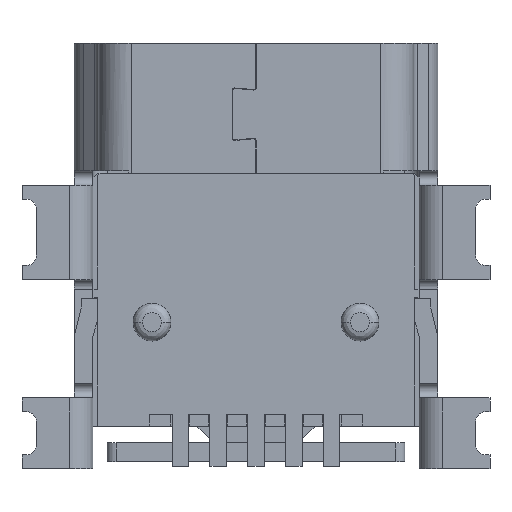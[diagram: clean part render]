
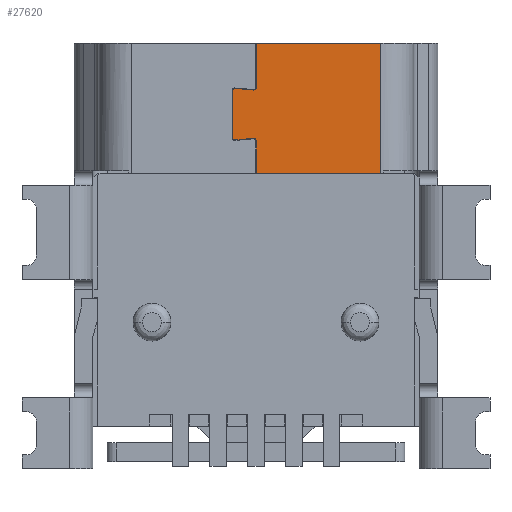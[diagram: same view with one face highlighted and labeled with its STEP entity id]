
A CAD part, front view. The second image highlights one B-rep face of the part: STEP entity #27620.
In plain terms, the highlighted planar face has unit normal (0, -1, 0).
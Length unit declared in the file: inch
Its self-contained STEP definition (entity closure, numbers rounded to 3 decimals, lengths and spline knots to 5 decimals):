
#16 = CARTESIAN_POINT ( 'NONE',  ( 0.17378, 0.13153, 0.38221 ) ) ;
#407 = LINE ( 'NONE', #13359, #23900 ) ;
#440 = AXIS2_PLACEMENT_3D ( 'NONE', #25414, #7127, #2770 ) ;
#950 = EDGE_LOOP ( 'NONE', ( #22763, #18030, #24563, #27498, #13477, #16109, #16695, #29429, #18558, #3939, #25614, #7949 ) ) ;
#1308 = DIRECTION ( 'NONE',  ( 0., 0., -1. ) ) ;
#1492 = CARTESIAN_POINT ( 'NONE',  ( 0.18937, 0.13153, 0.42592 ) ) ;
#2076 = EDGE_CURVE ( 'NONE', #2109, #15361, #17423, .T. ) ;
#2109 = VERTEX_POINT ( 'NONE', #19389 ) ;
#2512 = VERTEX_POINT ( 'NONE', #29074 ) ;
#2770 = DIRECTION ( 'NONE',  ( -0.087, 0., 0.996 ) ) ;
#2795 = DIRECTION ( 'NONE',  ( 0.087, 0., 0.996 ) ) ;
#3429 = CARTESIAN_POINT ( 'NONE',  ( 0.17362, 0.13153, 0.42334 ) ) ;
#3670 = EDGE_CURVE ( 'NONE', #18450, #22410, #11846, .T. ) ;
#3726 = CARTESIAN_POINT ( 'NONE',  ( 0.19154, 0.13153, 0.3814 ) ) ;
#3939 = ORIENTED_EDGE ( 'NONE', *, *, #13597, .F. ) ;
#4190 = EDGE_CURVE ( 'NONE', #22410, #22712, #7185, .T. ) ;
#4532 = VERTEX_POINT ( 'NONE', #21375 ) ;
#4672 = CARTESIAN_POINT ( 'NONE',  ( 0.17185, 0.13153, 0.42334 ) ) ;
#5221 = CARTESIAN_POINT ( 'NONE',  ( 0.29508, 0.13153, 0.35445 ) ) ;
#5472 = DIRECTION ( 'NONE',  ( 0., 0., -1. ) ) ;
#5992 = CIRCLE ( 'NONE', #26365, 0.00177 ) ;
#6085 = VECTOR ( 'NONE', #25701, 39.37008 ) ;
#6224 = EDGE_CURVE ( 'NONE', #25628, #9280, #407, .T. ) ;
#6398 = VECTOR ( 'NONE', #21691, 39.37008 ) ;
#6835 = DIRECTION ( 'NONE',  ( -1., 0., 0. ) ) ;
#7127 = DIRECTION ( 'NONE',  ( 0., 1., 0. ) ) ;
#7163 = CARTESIAN_POINT ( 'NONE',  ( 0.19154, 0.13153, 0.42592 ) ) ;
#7185 = LINE ( 'NONE', #26387, #23903 ) ;
#7601 = DIRECTION ( 'NONE',  ( -1., 0., 0. ) ) ;
#7949 = ORIENTED_EDGE ( 'NONE', *, *, #28063, .T. ) ;
#8042 = VECTOR ( 'NONE', #20046, 39.37008 ) ;
#8545 = EDGE_CURVE ( 'NONE', #22712, #25628, #11486, .T. ) ;
#8726 = CARTESIAN_POINT ( 'NONE',  ( 0.29508, 0.13153, 0.46271 ) ) ;
#8748 = EDGE_CURVE ( 'NONE', #19073, #4532, #25636, .T. ) ;
#9280 = VERTEX_POINT ( 'NONE', #27840 ) ;
#9385 = EDGE_CURVE ( 'NONE', #4532, #24325, #5992, .T. ) ;
#9813 = CARTESIAN_POINT ( 'NONE',  ( 0.18918, 0.13153, 0.42376 ) ) ;
#10294 = CARTESIAN_POINT ( 'NONE',  ( 0.17185, 0.13153, 0.38397 ) ) ;
#11176 = DIRECTION ( 'NONE',  ( 0., 0., -1. ) ) ;
#11457 = FACE_OUTER_BOUND ( 'NONE', #950, .T. ) ;
#11486 = CIRCLE ( 'NONE', #440, 0.00217 ) ;
#11734 = LINE ( 'NONE', #4672, #14928 ) ;
#11846 = CIRCLE ( 'NONE', #20081, 0.00177 ) ;
#12187 = CARTESIAN_POINT ( 'NONE',  ( 0.29508, 0.13153, 0.46271 ) ) ;
#12461 = VECTOR ( 'NONE', #7601, 39.37008 ) ;
#12662 = CARTESIAN_POINT ( 'NONE',  ( 0.19154, 0.13153, 0.46271 ) ) ;
#12742 = DIRECTION ( 'NONE',  ( 1., 0., 0. ) ) ;
#13029 = CARTESIAN_POINT ( 'NONE',  ( 0.18918, 0.13153, 0.38356 ) ) ;
#13359 = CARTESIAN_POINT ( 'NONE',  ( 0.19154, 0.13153, 0.3814 ) ) ;
#13477 = ORIENTED_EDGE ( 'NONE', *, *, #28015, .T. ) ;
#13597 = EDGE_CURVE ( 'NONE', #18822, #9280, #18139, .T. ) ;
#14495 = PLANE ( 'NONE',  #18762 ) ;
#14928 = VECTOR ( 'NONE', #18445, 39.37008 ) ;
#15361 = VERTEX_POINT ( 'NONE', #7163 ) ;
#15436 = CIRCLE ( 'NONE', #16601, 0.00217 ) ;
#15684 = DIRECTION ( 'NONE',  ( 0., -1., 0. ) ) ;
#16109 = ORIENTED_EDGE ( 'NONE', *, *, #3670, .T. ) ;
#16601 = AXIS2_PLACEMENT_3D ( 'NONE', #1492, #28818, #12742 ) ;
#16695 = ORIENTED_EDGE ( 'NONE', *, *, #4190, .T. ) ;
#16782 = CARTESIAN_POINT ( 'NONE',  ( 0.29508, 0.13153, 0.46271 ) ) ;
#16986 = CARTESIAN_POINT ( 'NONE',  ( 0.29508, 0.13153, 0.35445 ) ) ;
#17052 = LINE ( 'NONE', #12187, #12461 ) ;
#17080 = VECTOR ( 'NONE', #1308, 39.37008 ) ;
#17423 = LINE ( 'NONE', #12662, #17080 ) ;
#18030 = ORIENTED_EDGE ( 'NONE', *, *, #29495, .T. ) ;
#18139 = LINE ( 'NONE', #16986, #6398 ) ;
#18174 = EDGE_CURVE ( 'NONE', #2512, #18822, #22279, .T. ) ;
#18445 = DIRECTION ( 'NONE',  ( 0., 0., -1. ) ) ;
#18450 = VERTEX_POINT ( 'NONE', #10294 ) ;
#18558 = ORIENTED_EDGE ( 'NONE', *, *, #6224, .T. ) ;
#18762 = AXIS2_PLACEMENT_3D ( 'NONE', #16782, #21465, #5472 ) ;
#18822 = VERTEX_POINT ( 'NONE', #5221 ) ;
#19073 = VERTEX_POINT ( 'NONE', #26456 ) ;
#19389 = CARTESIAN_POINT ( 'NONE',  ( 0.19154, 0.13153, 0.46271 ) ) ;
#20046 = DIRECTION ( 'NONE',  ( 0., 0., -1. ) ) ;
#20081 = AXIS2_PLACEMENT_3D ( 'NONE', #20140, #15684, #6835 ) ;
#20140 = CARTESIAN_POINT ( 'NONE',  ( 0.17362, 0.13153, 0.38397 ) ) ;
#21375 = CARTESIAN_POINT ( 'NONE',  ( 0.17378, 0.13153, 0.42511 ) ) ;
#21465 = DIRECTION ( 'NONE',  ( 0., -1., 0. ) ) ;
#21691 = DIRECTION ( 'NONE',  ( -1., 0., 0. ) ) ;
#22279 = LINE ( 'NONE', #8726, #8042 ) ;
#22410 = VERTEX_POINT ( 'NONE', #16 ) ;
#22712 = VERTEX_POINT ( 'NONE', #13029 ) ;
#22763 = ORIENTED_EDGE ( 'NONE', *, *, #2076, .T. ) ;
#23434 = CARTESIAN_POINT ( 'NONE',  ( 0.17185, 0.13153, 0.42334 ) ) ;
#23900 = VECTOR ( 'NONE', #11176, 39.37008 ) ;
#23903 = VECTOR ( 'NONE', #28642, 39.37008 ) ;
#24325 = VERTEX_POINT ( 'NONE', #23434 ) ;
#24563 = ORIENTED_EDGE ( 'NONE', *, *, #8748, .T. ) ;
#25414 = CARTESIAN_POINT ( 'NONE',  ( 0.18937, 0.13153, 0.3814 ) ) ;
#25614 = ORIENTED_EDGE ( 'NONE', *, *, #18174, .F. ) ;
#25628 = VERTEX_POINT ( 'NONE', #3726 ) ;
#25636 = LINE ( 'NONE', #9813, #6085 ) ;
#25701 = DIRECTION ( 'NONE',  ( -0.996, 0., 0.087 ) ) ;
#26259 = DIRECTION ( 'NONE',  ( 0., -1., 0. ) ) ;
#26365 = AXIS2_PLACEMENT_3D ( 'NONE', #3429, #26259, #2795 ) ;
#26387 = CARTESIAN_POINT ( 'NONE',  ( 0.17378, 0.13153, 0.38221 ) ) ;
#26456 = CARTESIAN_POINT ( 'NONE',  ( 0.18918, 0.13153, 0.42376 ) ) ;
#27498 = ORIENTED_EDGE ( 'NONE', *, *, #9385, .T. ) ;
#27620 = ADVANCED_FACE ( 'NONE', ( #11457 ), #14495, .T. ) ;
#27840 = CARTESIAN_POINT ( 'NONE',  ( 0.19154, 0.13153, 0.35445 ) ) ;
#28015 = EDGE_CURVE ( 'NONE', #24325, #18450, #11734, .T. ) ;
#28063 = EDGE_CURVE ( 'NONE', #2512, #2109, #17052, .T. ) ;
#28642 = DIRECTION ( 'NONE',  ( 0.996, 0., 0.087 ) ) ;
#28818 = DIRECTION ( 'NONE',  ( 0., 1., 0. ) ) ;
#29074 = CARTESIAN_POINT ( 'NONE',  ( 0.29508, 0.13153, 0.46271 ) ) ;
#29429 = ORIENTED_EDGE ( 'NONE', *, *, #8545, .T. ) ;
#29495 = EDGE_CURVE ( 'NONE', #15361, #19073, #15436, .T. ) ;
